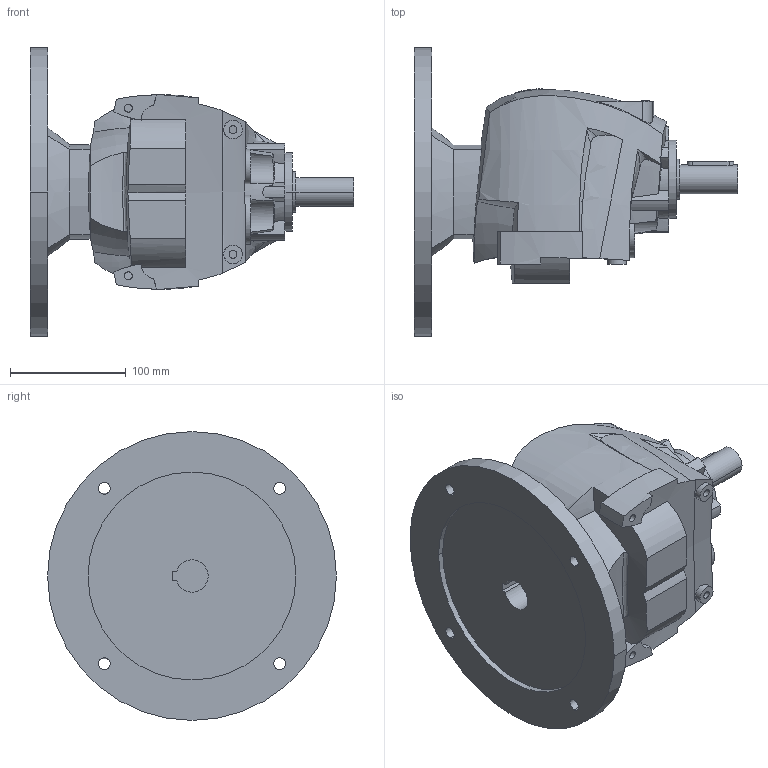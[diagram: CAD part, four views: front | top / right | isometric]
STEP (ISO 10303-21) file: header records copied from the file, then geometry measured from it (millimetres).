
FILE_DESCRIPTION((''),'2;1');
FILE_NAME('R25_UNV_PAM100112','2013-12-15T',('Luca'),(''),'PRO/ENGINEER BY PARAMETRIC TECHNOLOGY CORPORATION, 2008230','PRO/ENGINEER BY PARAMETRIC TECHNOLOGY CORPORATION, 2008230','');
FILE_SCHEMA(('CONFIG_CONTROL_DESIGN'));
Length unit declared in the file: millimetre
Products named in the file (1): R25_UNV_PAM100112
Bounding box: 280 x 250 x 250 mm (x, y, z)
Volume: 3839893.1 mm3; surface area: 252980 mm2
Topology: 1 solids, 1 shells, 379 faces, 1030 edges, 687 vertices
Faces by surface type: plane 138, cylinder 114, bspline 113, cone 8, torus 6
Entity records: 17808 total; most frequent: CARTESIAN_POINT 9080, ORIENTED_EDGE 2056, DIRECTION 1387, EDGE_CURVE 1028, VERTEX_POINT 687, AXIS2_PLACEMENT_3D 477, VECTOR 433, LINE 433
